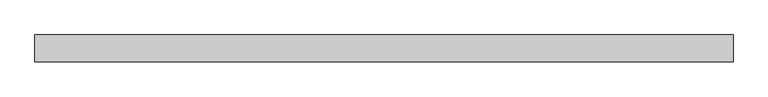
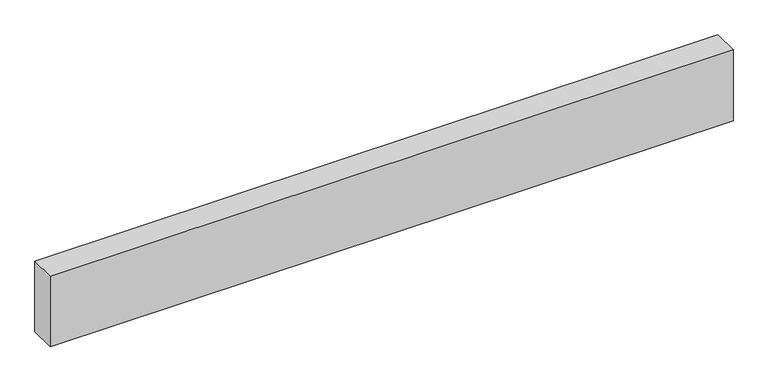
"""IFC4 building model written with IfcOpenShell, lengths in millimetres: proxy geometry."""

from ifc_helpers import new_model, si_unit, frame, origin, place, context, project, spatial, polyline, outline, extrude, source, transform, mapped, element, save


def structural_framing_6da7eefd(model_context):
    return source(origin(), model_context, "Body", "SweptSolid", [
        extrude(outline(polyline([(-1824.2, -70.0), (-1824.2, 70.0), (1824.2, 70.0), (1824.2, -70.0), (-1824.2, -70.0)])), frame((0.0, 0.0, -400.0), z_axis=(0.0, 0.0, 1.0), x_axis=(1.0, 0.0, 0.0)), (0.0, 0.0, 1.0), 400.0),
    ])


if __name__ == "__main__":
    model = new_model("IFC4")
    model_context = context("Model", 3, world=origin())
    ifc_project = project(units=[si_unit("LENGTHUNIT", "METRE", prefix="MILLI")], contexts=[model_context])
    site = spatial("IfcSite", under=ifc_project)
    building = spatial("IfcBuilding", under=site)
    placement = place(None, origin())
    structural_framing_shape = structural_framing_6da7eefd(model_context)
    element("IfcBuildingElementProxy", 1, Name="Structural Framing", at=placement, inside=building, context=model_context, shape_type="MappedRepresentation", body=[
        mapped(structural_framing_shape, transform((0.0, 0.0, 0.0), x_axis=(1.0, 0.0, 0.0), y_axis=(0.0, 1.0, 0.0), z_axis=(0.0, 0.0, 1.0))),
    ])
    save(model, "model.ifc")
